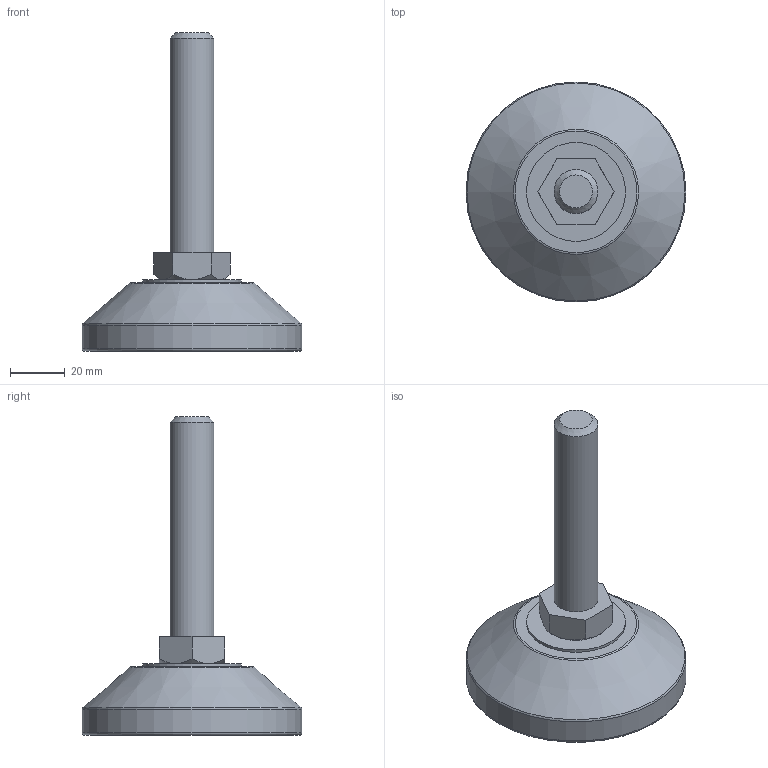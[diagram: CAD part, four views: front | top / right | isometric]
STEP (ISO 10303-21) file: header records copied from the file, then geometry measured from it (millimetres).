
FILE_DESCRIPTION(/* description */ (''),/* implementation_level */ '2;1');
FILE_NAME(/* name */ 'D:\조절자\F\F-M16-80L.stp',/* time_stamp */ '2016-03-14T14:32:09+09:00',/* author */ ('GS-DT-1-001'),/* organization */ (''),/* preprocessor_version */ 'ST-DEVELOPER v15.6',/* originating_system */ 'Autodesk Inventor LT ',/* authorisation */ '');
FILE_SCHEMA (('AUTOMOTIVE_DESIGN { 1 0 10303 214 3 1 1 }'));
Length unit declared in the file: millimetre
Products named in the file (1): F-M16-80L
Bounding box: 80 x 80 x 116 mm (x, y, z)
Volume: 88938.2 mm3; surface area: 22462.5 mm2
Topology: 1 solids, 2 shells, 46 faces, 81 edges, 50 vertices
Faces by surface type: plane 21, cylinder 13, cone 8, torus 4
Full cylindrical faces by diameter (mm): 6.912 x1, 8 x1, 8.2 x1, 8.3 x1, 16 x2, 36 x1, 50 x1, 57 x1, 61 x1, 71 x1, 75 x1, 80 x1
Entity records: 988 total; most frequent: DIRECTION 180, CARTESIAN_POINT 163, ORIENTED_EDGE 110, AXIS2_PLACEMENT_3D 84, EDGE_LOOP 82, EDGE_CURVE 55, VERTEX_POINT 49, FACE_OUTER_BOUND 46
